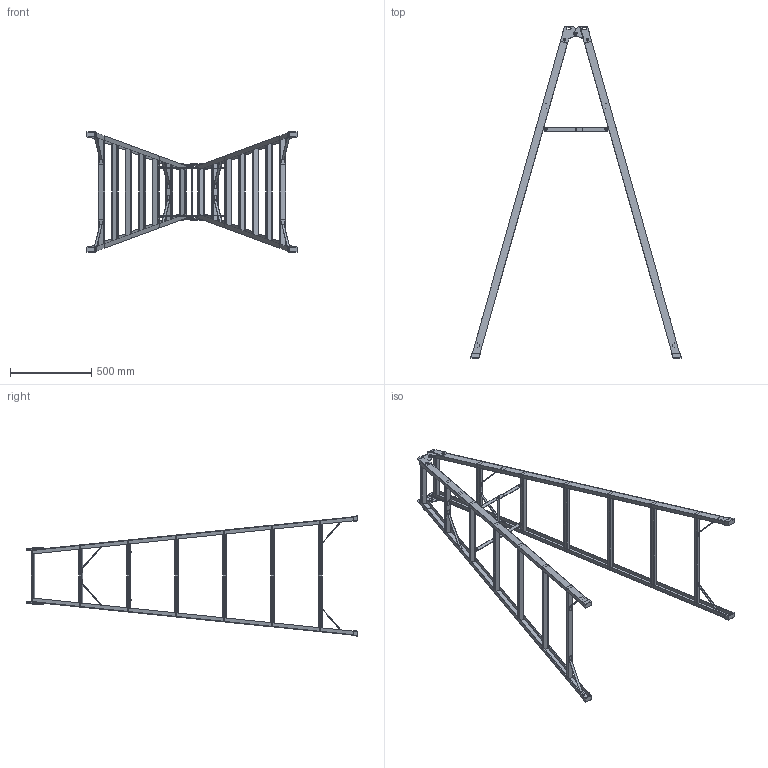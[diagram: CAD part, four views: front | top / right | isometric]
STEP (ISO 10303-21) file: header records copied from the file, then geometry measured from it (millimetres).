
FILE_DESCRIPTION(/* description */ (''),/* implementation_level */ '2;1');
FILE_NAME(/* name */ 'C:\Users\unitec\Documents\Inventor\HP\脚立\脚立-7尺.stp',/* time_stamp */ '2017-03-30T18:20:51+09:00',/* author */ ('unitec'),/* organization */ (''),/* preprocessor_version */ 'ST-DEVELOPER v15.2',/* originating_system */ 'Autodesk Inventor 2014',/* authorisation */ '');
FILE_SCHEMA (('AUTOMOTIVE_DESIGN { 1 0 10303 214 3 1 1 }'));
Length unit declared in the file: millimetre
Products named in the file (1): 脚立-7尺
Bounding box: 1298.64 x 2045.37 x 741.54 mm (x, y, z)
Volume: 7793655.1 mm3; surface area: 2543839.2 mm2
Topology: 10 solids, 10 shells, 873 faces, 2225 edges, 1442 vertices
Faces by surface type: plane 562, cylinder 223, sphere 44, bspline 40, torus 4
Full cylindrical faces by diameter (mm): 10 x17, 15 x8
Entity records: 27332 total; most frequent: CARTESIAN_POINT 5668, DIRECTION 4428, ORIENTED_EDGE 4392, EDGE_CURVE 2196, LINE 1576, VECTOR 1576, VERTEX_POINT 1442, AXIS2_PLACEMENT_3D 1426
